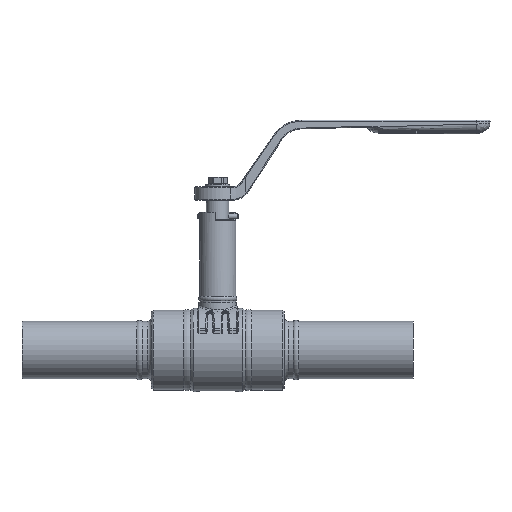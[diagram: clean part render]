
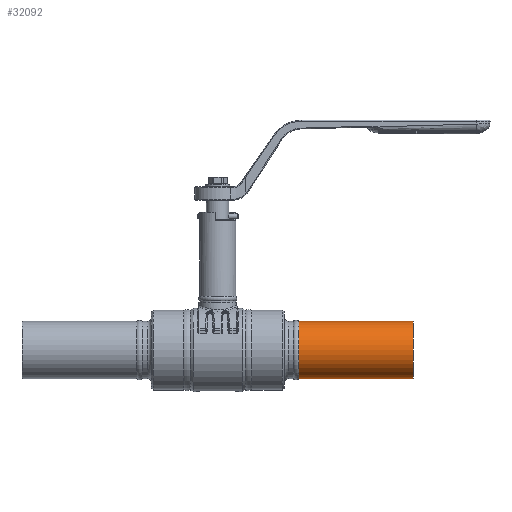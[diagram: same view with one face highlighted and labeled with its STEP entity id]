
A CAD part, front view. The second image highlights one B-rep face of the part: STEP entity #32092.
In plain terms, the highlighted cylindrical face has radius 16.85 mm (diameter 33.7 mm), a partial arc.
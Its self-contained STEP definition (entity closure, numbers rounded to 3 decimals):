
#10325=CARTESIAN_POINT('',(47.6,0.,0.));
#10326=DIRECTION('',(1.,0.,0.));
#10327=DIRECTION('',(0.,0.,1.));
#10328=AXIS2_PLACEMENT_3D('',#10325,#10326,#10327);
#10335=DIRECTION('',(1.,0.,0.));
#10336=VECTOR('',#10335,67.4);
#10337=CARTESIAN_POINT('',(47.6,0.,-16.85));
#10338=LINE('',#10337,#10336);
#10339=DIRECTION('',(1.,0.,0.));
#10340=VECTOR('',#10339,67.4);
#10341=CARTESIAN_POINT('',(47.6,0.,16.85));
#10342=LINE('',#10341,#10340);
#10343=CARTESIAN_POINT('',(115.,0.,0.));
#10344=DIRECTION('',(1.,0.,0.));
#10345=DIRECTION('',(0.,0.,1.));
#10346=AXIS2_PLACEMENT_3D('',#10343,#10344,#10345);
#13306=CARTESIAN_POINT('',(115.,0.,16.85));
#13307=CARTESIAN_POINT('',(115.,0.,-16.85));
#13308=VERTEX_POINT('',#13306);
#13309=VERTEX_POINT('',#13307);
#14282=CARTESIAN_POINT('',(47.6,0.,16.85));
#14283=CARTESIAN_POINT('',(47.6,0.,-16.85));
#14284=VERTEX_POINT('',#14282);
#14285=VERTEX_POINT('',#14283);
#32078=CARTESIAN_POINT('',(42.55,0.,0.));
#32079=DIRECTION('',(1.,0.,0.));
#32080=DIRECTION('',(0.,0.,1.));
#32081=AXIS2_PLACEMENT_3D('',#32078,#32079,#32080);
#32082=CYLINDRICAL_SURFACE('',#32081,16.85);
#32083=ORIENTED_EDGE('',*,*,#32053,.F.);
#32085=ORIENTED_EDGE('',*,*,#32084,.T.);
#32087=ORIENTED_EDGE('',*,*,#32086,.T.);
#32089=ORIENTED_EDGE('',*,*,#32088,.F.);
#32090=EDGE_LOOP('',(#32083,#32085,#32087,#32089));
#32091=FACE_OUTER_BOUND('',#32090,.F.);
#10329=CIRCLE('',#10328,16.85);
#10347=CIRCLE('',#10346,16.85);
#32053=EDGE_CURVE('',#14284,#14285,#10329,.T.);
#32084=EDGE_CURVE('',#14284,#13308,#10342,.T.);
#32086=EDGE_CURVE('',#13308,#13309,#10347,.T.);
#32088=EDGE_CURVE('',#14285,#13309,#10338,.T.);
#32092=ADVANCED_FACE('',(#32091),#32082,.T.);
